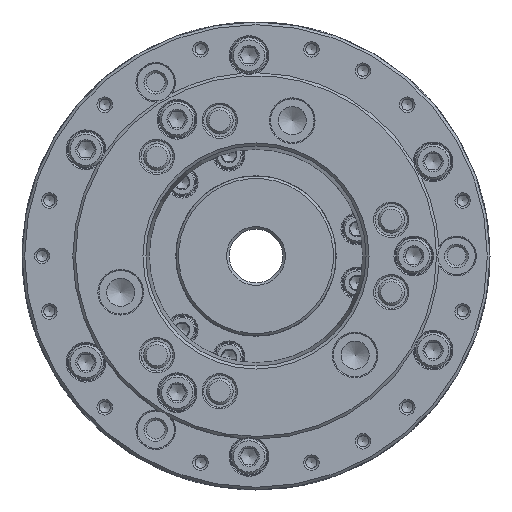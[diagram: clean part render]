
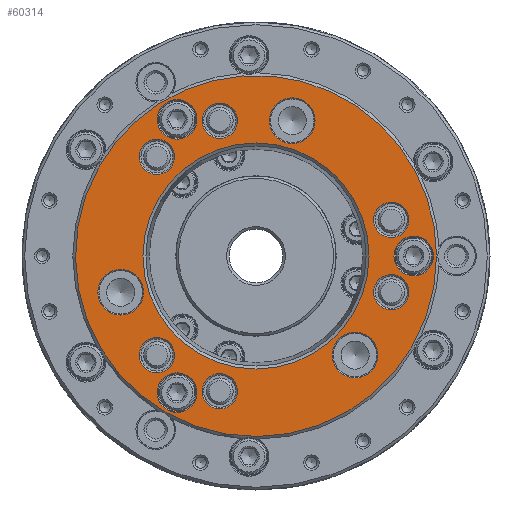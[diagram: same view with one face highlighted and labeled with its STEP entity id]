
A CAD part, left-side view. The second image highlights one B-rep face of the part: STEP entity #60314.
In plain terms, the highlighted planar face has unit normal (-1, 0, 0).
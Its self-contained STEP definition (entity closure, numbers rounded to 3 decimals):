
#314 = DIRECTION ( 'NONE',  ( -1., 0., 0. ) ) ;
#1896 = EDGE_LOOP ( 'NONE', ( #4061 ) ) ;
#2133 = CARTESIAN_POINT ( 'NONE',  ( -95., 37.045, 37.045 ) ) ;
#2452 = DIRECTION ( 'NONE',  ( -1., 0., 0. ) ) ;
#2628 = VERTEX_POINT ( 'NONE', #67154 ) ;
#2971 = ORIENTED_EDGE ( 'NONE', *, *, #75965, .F. ) ;
#3239 = DIRECTION ( 'NONE',  ( 0., 0., -1. ) ) ;
#3546 = EDGE_LOOP ( 'NONE', ( #88068 ) ) ;
#4061 = ORIENTED_EDGE ( 'NONE', *, *, #68811, .T. ) ;
#4207 = CIRCLE ( 'NONE', #66081, 8.54 ) ;
#4272 = DIRECTION ( 'NONE',  ( 1., 0., 0. ) ) ;
#4339 = EDGE_LOOP ( 'NONE', ( #15627 ) ) ;
#4410 = ORIENTED_EDGE ( 'NONE', *, *, #23620, .T. ) ;
#4949 = DIRECTION ( 'NONE',  ( 1., 0., 0. ) ) ;
#5745 = CARTESIAN_POINT ( 'NONE',  ( -95., 29.5, 58.495 ) ) ;
#5788 = VERTEX_POINT ( 'NONE', #89043 ) ;
#6025 = EDGE_CURVE ( 'NONE', #2628, #2628, #77945, .T. ) ;
#7914 = CARTESIAN_POINT ( 'NONE',  ( -95., -50.605, 6.96 ) ) ;
#8701 = CARTESIAN_POINT ( 'NONE',  ( -95., 13.56, 50.605 ) ) ;
#9446 = FACE_BOUND ( 'NONE', #1896, .T. ) ;
#9795 = CARTESIAN_POINT ( 'NONE',  ( -95., 29.5, 51.095 ) ) ;
#9960 = FACE_BOUND ( 'NONE', #105660, .T. ) ;
#10493 = FACE_BOUND ( 'NONE', #4339, .T. ) ;
#11085 = CARTESIAN_POINT ( 'NONE',  ( -95., -45.585, -37.045 ) ) ;
#12161 = CARTESIAN_POINT ( 'NONE',  ( -95., -50.605, -13.56 ) ) ;
#13542 = DIRECTION ( 'NONE',  ( 0., 0., -1. ) ) ;
#14006 = EDGE_LOOP ( 'NONE', ( #21869 ) ) ;
#15135 = EDGE_LOOP ( 'NONE', ( #2971 ) ) ;
#15297 = EDGE_CURVE ( 'NONE', #38514, #38514, #28363, .T. ) ;
#15499 = AXIS2_PLACEMENT_3D ( 'NONE', #12161, #75644, #36312 ) ;
#15627 = ORIENTED_EDGE ( 'NONE', *, *, #27892, .F. ) ;
#15682 = ORIENTED_EDGE ( 'NONE', *, *, #6025, .T. ) ;
#17532 = ORIENTED_EDGE ( 'NONE', *, *, #19936, .F. ) ;
#17549 = FACE_BOUND ( 'NONE', #15135, .T. ) ;
#18982 = EDGE_CURVE ( 'NONE', #5788, #5788, #73427, .T. ) ;
#19284 = CARTESIAN_POINT ( 'NONE',  ( -95., 13.56, 44.005 ) ) ;
#19651 = FACE_BOUND ( 'NONE', #3546, .T. ) ;
#19936 = EDGE_CURVE ( 'NONE', #89597, #89597, #86506, .T. ) ;
#21869 = ORIENTED_EDGE ( 'NONE', *, *, #41567, .T. ) ;
#22452 = ORIENTED_EDGE ( 'NONE', *, *, #72400, .T. ) ;
#23212 = EDGE_LOOP ( 'NONE', ( #4410 ) ) ;
#23620 = EDGE_CURVE ( 'NONE', #59490, #59490, #62732, .T. ) ;
#24516 = CARTESIAN_POINT ( 'NONE',  ( -95., 37.045, 30.445 ) ) ;
#24560 = VERTEX_POINT ( 'NONE', #82584 ) ;
#26178 = EDGE_CURVE ( 'NONE', #24560, #24560, #48032, .T. ) ;
#26589 = FACE_BOUND ( 'NONE', #85625, .T. ) ;
#26937 = DIRECTION ( 'NONE',  ( -1., 0., 0. ) ) ;
#27457 = AXIS2_PLACEMENT_3D ( 'NONE', #62469, #4949, #13542 ) ;
#27892 = EDGE_CURVE ( 'NONE', #99784, #99784, #41655, .T. ) ;
#28363 = CIRCLE ( 'NONE', #62788, 8.54 ) ;
#29774 = CARTESIAN_POINT ( 'NONE',  ( -95., -37.045, -37.045 ) ) ;
#29850 = AXIS2_PLACEMENT_3D ( 'NONE', #102968, #61612, #94374 ) ;
#30410 = VERTEX_POINT ( 'NONE', #101967 ) ;
#30805 = CIRCLE ( 'NONE', #27457, 6.6 ) ;
#31286 = EDGE_CURVE ( 'NONE', #86286, #86286, #78953, .T. ) ;
#31853 = CARTESIAN_POINT ( 'NONE',  ( -95., 0., 0. ) ) ;
#34315 = DIRECTION ( 'NONE',  ( 0., 0., -1. ) ) ;
#35676 = FACE_BOUND ( 'NONE', #68973, .T. ) ;
#36262 = DIRECTION ( 'NONE',  ( 1., 0., 0. ) ) ;
#36312 = DIRECTION ( 'NONE',  ( 0., 0., -1. ) ) ;
#36501 = AXIS2_PLACEMENT_3D ( 'NONE', #52350, #2452, #99719 ) ;
#38514 = VERTEX_POINT ( 'NONE', #104640 ) ;
#39961 = CARTESIAN_POINT ( 'NONE',  ( -95., 50.605, -13.56 ) ) ;
#40588 = VERTEX_POINT ( 'NONE', #24516 ) ;
#41243 = ORIENTED_EDGE ( 'NONE', *, *, #18982, .F. ) ;
#41567 = EDGE_CURVE ( 'NONE', #72800, #72800, #30805, .T. ) ;
#41655 = CIRCLE ( 'NONE', #62345, 42.279 ) ;
#42110 = CARTESIAN_POINT ( 'NONE',  ( -95., -59., 0. ) ) ;
#42713 = PLANE ( 'NONE',  #36501 ) ;
#43358 = EDGE_LOOP ( 'NONE', ( #102861 ) ) ;
#45865 = CARTESIAN_POINT ( 'NONE',  ( -95., -22.1, 50.605 ) ) ;
#46029 = CARTESIAN_POINT ( 'NONE',  ( -95., 29.5, -43.695 ) ) ;
#48032 = CIRCLE ( 'NONE', #15499, 6.6 ) ;
#48357 = CIRCLE ( 'NONE', #89595, 7.4 ) ;
#49028 = AXIS2_PLACEMENT_3D ( 'NONE', #61791, #4272, #3239 ) ;
#49666 = AXIS2_PLACEMENT_3D ( 'NONE', #31853, #64705, #90992 ) ;
#51306 = FACE_BOUND ( 'NONE', #23212, .T. ) ;
#52350 = CARTESIAN_POINT ( 'NONE',  ( -95., -67.5, 0. ) ) ;
#53193 = CARTESIAN_POINT ( 'NONE',  ( -95., 0., 0. ) ) ;
#55597 = AXIS2_PLACEMENT_3D ( 'NONE', #85690, #84652, #101309 ) ;
#56896 = AXIS2_PLACEMENT_3D ( 'NONE', #8701, #82311, #91449 ) ;
#59375 = DIRECTION ( 'NONE',  ( 0., -1., 0. ) ) ;
#59490 = VERTEX_POINT ( 'NONE', #7914 ) ;
#59890 = DIRECTION ( 'NONE',  ( 0., 0., 1. ) ) ;
#60314 = ADVANCED_FACE ( 'NONE', ( #91124, #19651, #35676, #17549, #68537, #100253, #101306, #9446, #26589, #92194, #51306, #9960, #84118, #10493 ), #42713, .T. ) ;
#61612 = DIRECTION ( 'NONE',  ( -1., 0., 0. ) ) ;
#61791 = CARTESIAN_POINT ( 'NONE',  ( -95., -50.605, 13.56 ) ) ;
#62345 = AXIS2_PLACEMENT_3D ( 'NONE', #53193, #77956, #75873 ) ;
#62469 = CARTESIAN_POINT ( 'NONE',  ( -95., 37.045, -37.045 ) ) ;
#62732 = CIRCLE ( 'NONE', #49028, 6.6 ) ;
#62788 = AXIS2_PLACEMENT_3D ( 'NONE', #39961, #81385, #88896 ) ;
#64705 = DIRECTION ( 'NONE',  ( -1., 0., 0. ) ) ;
#65437 = CARTESIAN_POINT ( 'NONE',  ( -95., -42.279, 0. ) ) ;
#65771 = ORIENTED_EDGE ( 'NONE', *, *, #15297, .T. ) ;
#66081 = AXIS2_PLACEMENT_3D ( 'NONE', #67445, #99656, #59375 ) ;
#67154 = CARTESIAN_POINT ( 'NONE',  ( -95., 13.56, -57.205 ) ) ;
#67445 = CARTESIAN_POINT ( 'NONE',  ( -95., -13.56, 50.605 ) ) ;
#68537 = FACE_BOUND ( 'NONE', #72197, .T. ) ;
#68811 = EDGE_CURVE ( 'NONE', #92877, #92877, #89474, .T. ) ;
#68973 = EDGE_LOOP ( 'NONE', ( #17532 ) ) ;
#72197 = EDGE_LOOP ( 'NONE', ( #15682 ) ) ;
#72400 = EDGE_CURVE ( 'NONE', #30410, #30410, #96021, .T. ) ;
#72800 = VERTEX_POINT ( 'NONE', #103980 ) ;
#73427 = CIRCLE ( 'NONE', #90607, 7.4 ) ;
#75644 = DIRECTION ( 'NONE',  ( 1., 0., 0. ) ) ;
#75873 = DIRECTION ( 'NONE',  ( 0., -1., 0. ) ) ;
#75965 = EDGE_CURVE ( 'NONE', #79372, #79372, #48357, .T. ) ;
#77945 = CIRCLE ( 'NONE', #55597, 6.6 ) ;
#77956 = DIRECTION ( 'NONE',  ( -1., 0., 0. ) ) ;
#78953 = CIRCLE ( 'NONE', #92714, 8.54 ) ;
#79244 = VERTEX_POINT ( 'NONE', #45865 ) ;
#79372 = VERTEX_POINT ( 'NONE', #5745 ) ;
#80125 = EDGE_LOOP ( 'NONE', ( #22452 ) ) ;
#80562 = ORIENTED_EDGE ( 'NONE', *, *, #92775, .T. ) ;
#81379 = EDGE_CURVE ( 'NONE', #40588, #40588, #104368, .T. ) ;
#81385 = DIRECTION ( 'NONE',  ( 1., 0., 0. ) ) ;
#82311 = DIRECTION ( 'NONE',  ( 1., 0., 0. ) ) ;
#82584 = CARTESIAN_POINT ( 'NONE',  ( -95., -50.605, -20.16 ) ) ;
#83557 = EDGE_LOOP ( 'NONE', ( #80562 ) ) ;
#83830 = AXIS2_PLACEMENT_3D ( 'NONE', #2133, #91863, #34315 ) ;
#84118 = FACE_OUTER_BOUND ( 'NONE', #80125, .T. ) ;
#84631 = ORIENTED_EDGE ( 'NONE', *, *, #26178, .T. ) ;
#84652 = DIRECTION ( 'NONE',  ( 1., 0., 0. ) ) ;
#85625 = EDGE_LOOP ( 'NONE', ( #65771 ) ) ;
#85690 = CARTESIAN_POINT ( 'NONE',  ( -95., 13.56, -50.605 ) ) ;
#86286 = VERTEX_POINT ( 'NONE', #11085 ) ;
#86506 = CIRCLE ( 'NONE', #29850, 7.4 ) ;
#88068 = ORIENTED_EDGE ( 'NONE', *, *, #31286, .T. ) ;
#88896 = DIRECTION ( 'NONE',  ( 0., -1., 0. ) ) ;
#89043 = CARTESIAN_POINT ( 'NONE',  ( -95., -59., 7.4 ) ) ;
#89474 = CIRCLE ( 'NONE', #56896, 6.6 ) ;
#89595 = AXIS2_PLACEMENT_3D ( 'NONE', #9795, #26937, #92017 ) ;
#89597 = VERTEX_POINT ( 'NONE', #46029 ) ;
#90607 = AXIS2_PLACEMENT_3D ( 'NONE', #42110, #314, #59890 ) ;
#90992 = DIRECTION ( 'NONE',  ( 0., -1., 0. ) ) ;
#91124 = FACE_BOUND ( 'NONE', #83557, .T. ) ;
#91449 = DIRECTION ( 'NONE',  ( 0., 0., -1. ) ) ;
#91863 = DIRECTION ( 'NONE',  ( 1., 0., 0. ) ) ;
#92017 = DIRECTION ( 'NONE',  ( 0., 0., 1. ) ) ;
#92194 = FACE_BOUND ( 'NONE', #93531, .T. ) ;
#92714 = AXIS2_PLACEMENT_3D ( 'NONE', #29774, #36262, #103437 ) ;
#92775 = EDGE_CURVE ( 'NONE', #79244, #79244, #4207, .T. ) ;
#92877 = VERTEX_POINT ( 'NONE', #19284 ) ;
#93531 = EDGE_LOOP ( 'NONE', ( #41243 ) ) ;
#94374 = DIRECTION ( 'NONE',  ( 0., 0., 1. ) ) ;
#96021 = CIRCLE ( 'NONE', #49666, 67.5 ) ;
#99656 = DIRECTION ( 'NONE',  ( 1., 0., 0. ) ) ;
#99719 = DIRECTION ( 'NONE',  ( 0., -1., 0. ) ) ;
#99784 = VERTEX_POINT ( 'NONE', #65437 ) ;
#100253 = FACE_BOUND ( 'NONE', #14006, .T. ) ;
#101306 = FACE_BOUND ( 'NONE', #43358, .T. ) ;
#101309 = DIRECTION ( 'NONE',  ( 0., 0., -1. ) ) ;
#101967 = CARTESIAN_POINT ( 'NONE',  ( -95., -67.5, 0. ) ) ;
#102861 = ORIENTED_EDGE ( 'NONE', *, *, #81379, .T. ) ;
#102968 = CARTESIAN_POINT ( 'NONE',  ( -95., 29.5, -51.095 ) ) ;
#103437 = DIRECTION ( 'NONE',  ( 0., -1., 0. ) ) ;
#103980 = CARTESIAN_POINT ( 'NONE',  ( -95., 37.045, -43.645 ) ) ;
#104368 = CIRCLE ( 'NONE', #83830, 6.6 ) ;
#104640 = CARTESIAN_POINT ( 'NONE',  ( -95., 42.065, -13.56 ) ) ;
#105660 = EDGE_LOOP ( 'NONE', ( #84631 ) ) ;
